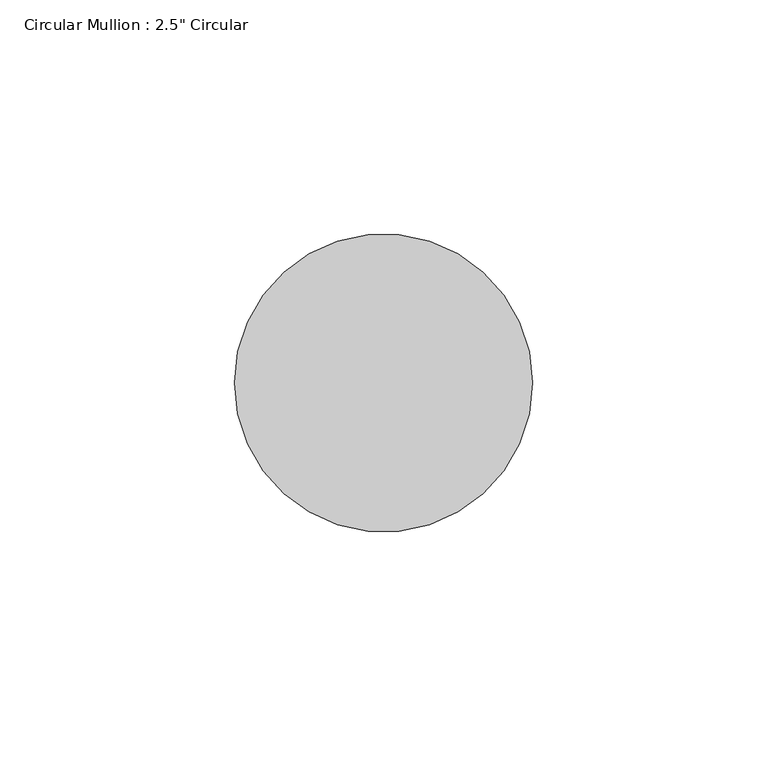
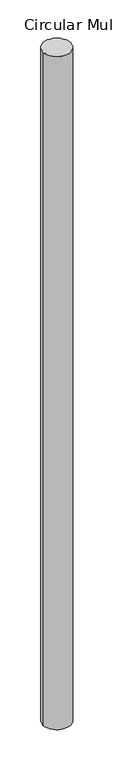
"""IFC4 building model written with IfcOpenShell, lengths in millimetres: member geometry."""

from ifc_helpers import new_model, si_unit, point, frame, origin, origin_2d, place, context, project, spatial, circle_curve, trimmed, segment, composite_curve, outline, extrude, source, transform, mapped, element, save


def member_02b95b9d(model_context):
    return source(origin(), model_context, "Body", "SweptSolid", [
        extrude(outline(composite_curve([segment(trimmed(circle_curve(origin_2d(), 31.75), [point((31.75, 0.0))], [point((-31.75, 0.0))], False, "CARTESIAN"), True, "CONTINUOUS"), segment(trimmed(circle_curve(origin_2d(), 31.75), [point((-31.75, 0.0))], [point((31.75, 0.0))], False, "CARTESIAN"), True, "CONTINUOUS")], self_intersect=False)), frame((0.0, 0.0, -1627.8996591), z_axis=(0.0, 0.0, 1.0), x_axis=(1.0, 0.0, 0.0)), (0.0, 0.0, 1.0), 1627.8996591),
    ])


if __name__ == "__main__":
    model = new_model("IFC4")
    model_context = context("Model", 3, world=origin())
    ifc_project = project(units=[si_unit("LENGTHUNIT", "METRE", prefix="MILLI")], contexts=[model_context])
    site = spatial("IfcSite", under=ifc_project)
    building = spatial("IfcBuilding", under=site)
    placement = place(None, origin())
    member_shape = member_02b95b9d(model_context)
    element("IfcMember", 1, ObjectType="Circular Mullion : 2.5\" Circular", at=placement, inside=building, context=model_context, shape_type="MappedRepresentation", body=[
        mapped(member_shape, transform((0.0, 0.0, 0.0), x_axis=(1.0, 0.0, 0.0), y_axis=(0.0, 1.0, 0.0), z_axis=(0.0, 0.0, 1.0))),
    ])
    save(model, "model.ifc")
